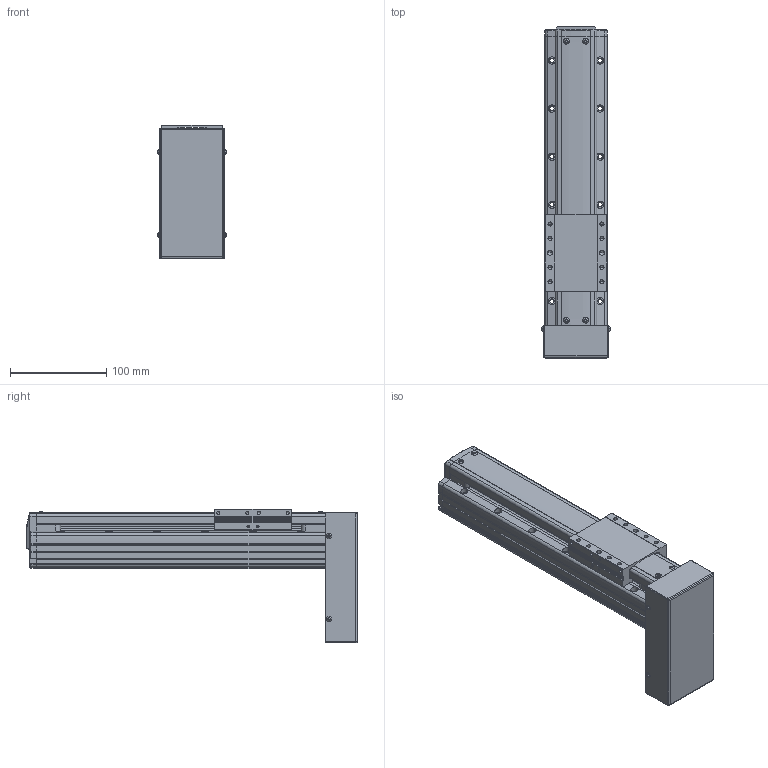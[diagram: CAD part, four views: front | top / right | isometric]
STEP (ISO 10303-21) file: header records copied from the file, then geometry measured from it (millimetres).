
FILE_DESCRIPTION(('STEP AP214'),'1');
FILE_NAME('Z:/Web/3D/PSA65/STP/PSA65-150 (3D)/PSA65ㅁㅁ-150PB.stp','2014-06-25T03:19:09',(' '),(' '),'Spatial InterOp 3D',' ',' ');
FILE_SCHEMA(('automotive_design'));
Length unit declared in the file: millimetre
Products named in the file (49): SLIDE; RRCV-PA060; 1; 2; 3; 4; 5; 6; 7; 8; 9; 10; 11; 12; 13; 14; 15; 16; 17; 18; 19; 20; 21; 22; 23; 24; 25; 26; 27; 28; 29; 30; 31; 스크루 : Round - M3.0 x 8.0; RN8 x 0.75; SHAFT-SAN65; BASE; 스크루 : Round - M3.0 x 6.0; BTCV-SAN65; M3.0 x 6.0
Bounding box: 71.13 x 344.8 x 139 mm (x, y, z)
Volume: 1276221.5 mm3; surface area: 182505.5 mm2
Topology: 49 solids, 49 shells, 1689 faces, 4467 edges, 2855 vertices
Faces by surface type: plane 1032, cylinder 443, cone 149, sphere 30, bspline 19, torus 16
Entity records: 67110 total; most frequent: CARTESIAN_POINT 10659, DIRECTION 8872, ORIENTED_EDGE 8734, EDGE_CURVE 4367, LINE 3136, VECTOR 3136, AXIS2_PLACEMENT_3D 2868, VERTEX_POINT 2855
